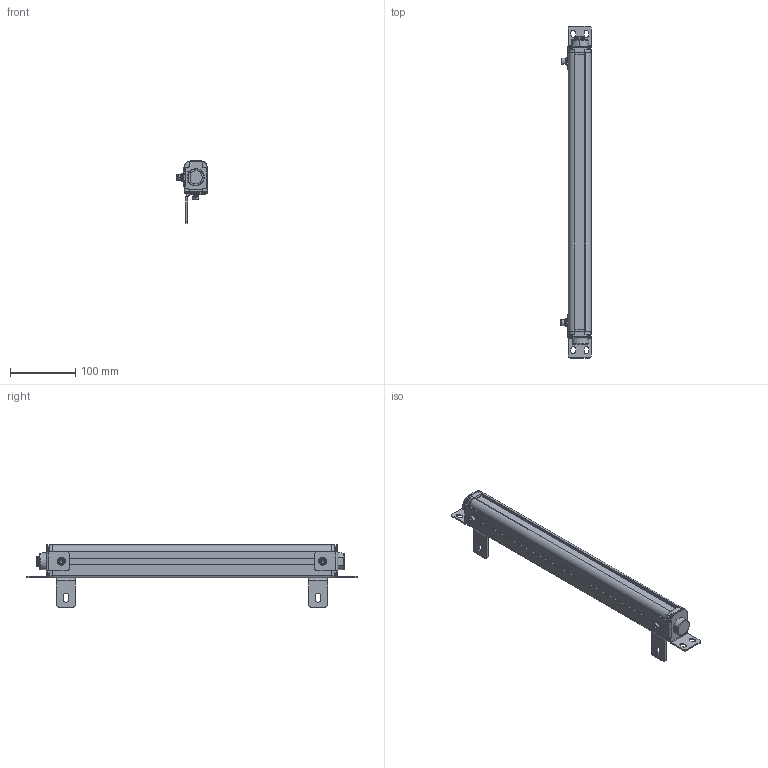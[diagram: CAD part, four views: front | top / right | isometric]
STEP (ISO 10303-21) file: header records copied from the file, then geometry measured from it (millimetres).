
FILE_DESCRIPTION((''),'2;1');
FILE_NAME('ESN--000_ASM','2021-08-10T21:15:36',('18720616900'),(''),'CREO PARAMETRIC BY PTC INC, 2019010','CREO PARAMETRIC BY PTC INC, 2019010','');
FILE_SCHEMA(('CONFIG_CONTROL_DESIGN'));
Products named in the file (22): 00; 000; _0002; _0003; _0004; 5000; 5--0001; ESN_50001_ASM; ST-3-120001; L10001; M6-8--0001; M6-1--00; M6-1-00; M6-80001_ASM; L1--0001_ASM; H1--000; H1--0003_ASM; H1--0001_ASM; ESN--000_ASM
Assembly tree (35 placements, depth 4):
  ESN--000_ASM
    00
    000
    _0002
    _0003
    _0004
    000
    ESN_50001_ASM
      5000
      5--0001  x5
    ST-3-120001  x8
    L1--0001_ASM  x2
      L10001
      M6-80001_ASM
        M6-8--0001
        M6-1--00
        M6-1-00
        00
    H1--0003_ASM
      H1--000
      M6-80001_ASM
        M6-8--0001
        M6-1--00
        M6-1-00
        00
    H1--0001_ASM
      H1--000
      M6-80001_ASM
        M6-8--0001
        M6-1--00
        M6-1-00
        00
Bounding box: 46.5 x 507 x 94.95 mm (x, y, z)
Volume: 687721.1 mm3; surface area: 170451.6 mm2
Topology: 40 solids, 40 shells, 1785 faces, 4708 edges, 3012 vertices
Faces by surface type: plane 583, cylinder 416, bspline 362, cone 291, torus 107, sphere 26
Entity records: 48222 total; most frequent: CARTESIAN_POINT 24957, ORIENTED_EDGE 5136, DIRECTION 4189, EDGE_CURVE 2568, VERTEX_POINT 1669, AXIS2_PLACEMENT_3D 1488, VECTOR 1213, LINE 1213
